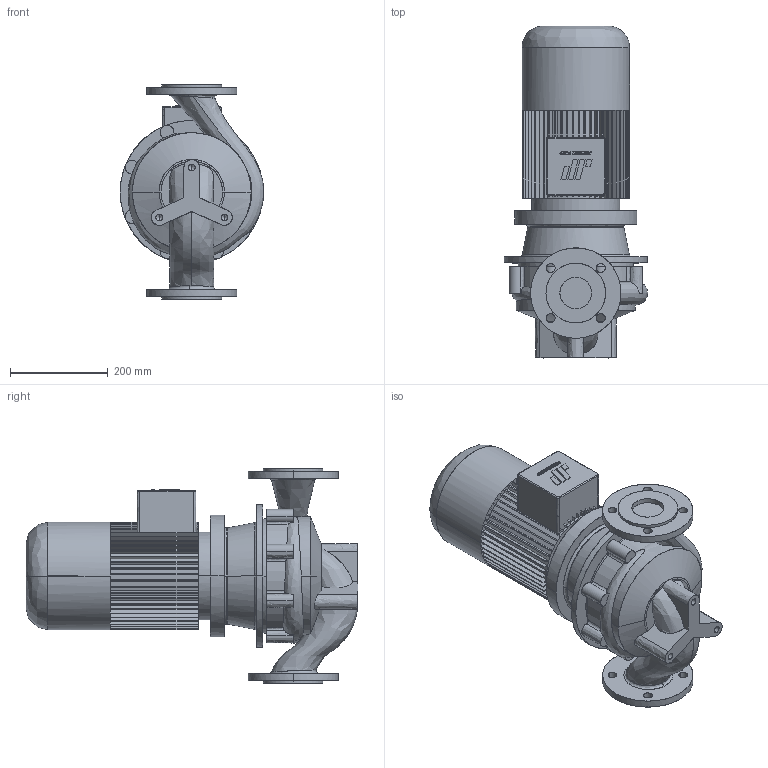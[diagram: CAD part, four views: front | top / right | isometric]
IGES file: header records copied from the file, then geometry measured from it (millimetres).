
Start section: CombiLine
Global section: file name: CLB_65-200_IEC112M_ND10.igs; native system:  By UGS Corp.; preprocessor: XPlus GENERIC/IGES 3.0; author: Stageplaats; organization: Johnson Pump Water B.V.; date: 20070716.131702; units: millimetre
Bounding box: 293.91 x 679.5 x 440 mm (x, y, z)
Surface area: 1060076.8 mm2 (no closed solid volume)
Topology: 0 solids, 0 shells, 550 faces, 3342 edges, 3336 vertices
Faces by surface type: bspline 550
